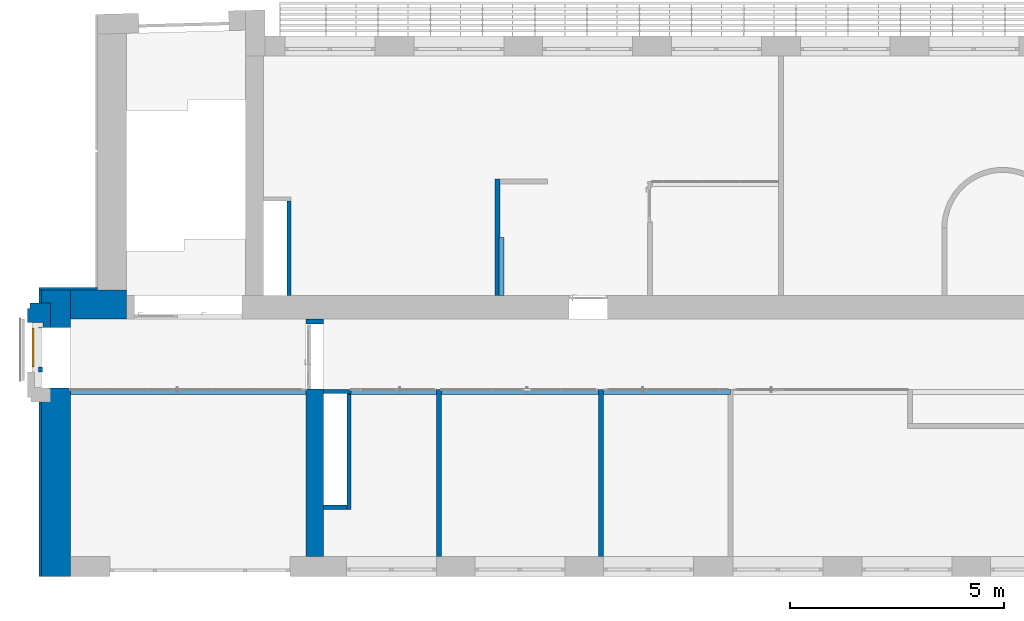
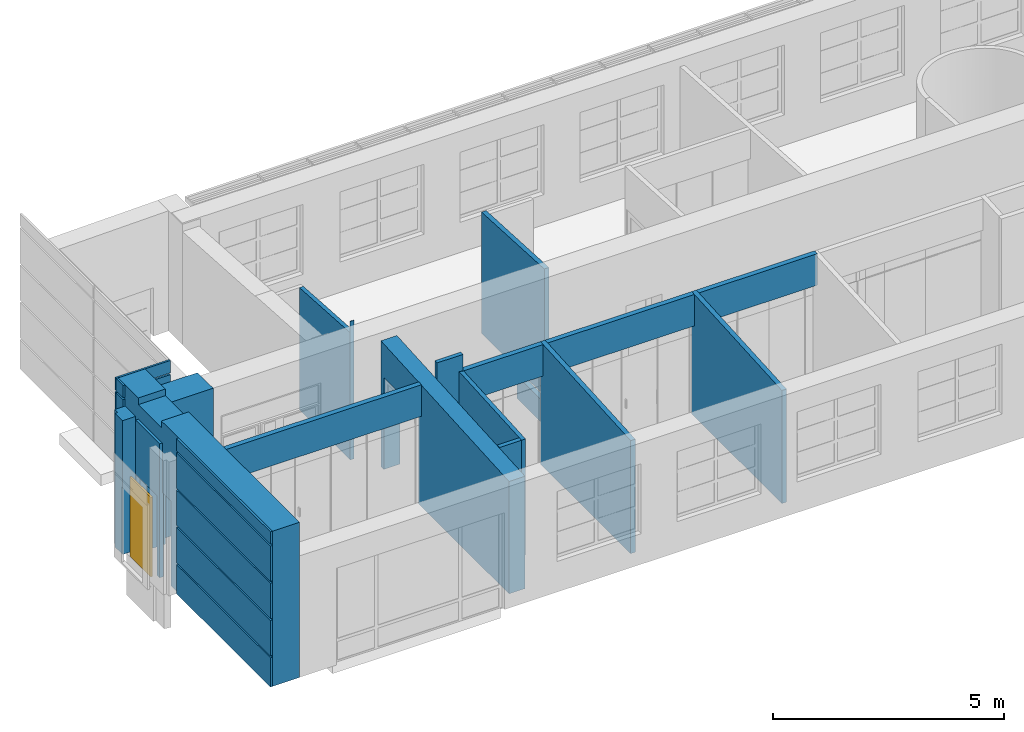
# One storey, part 24 of 46: 19 walls, 1 door, 5 openings.
"""IFC2X3 building model written with IfcOpenShell, lengths in millimetres."""

from ifc_helpers import new_model, entity, si_unit, converted_unit, derived_unit, direction, frame, frame_2d, origin, origin_2d_with_axis, place, context, subcontext, project, spatial, polyline, rectangle, outline, extrude, clip, halfspace, bounded_halfspace, source, transform, mapped, material, layer, layer_set, layer_usage, type_object, type_shapes, element, fill, save


model = new_model("IFC2X3")

# Units and contexts
model_context = context("Model", 3, precision=0.01, world=origin(), true_north=direction((6.12303176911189e-17, 1.0)))
body_context = subcontext(model_context, "Body", "Model", "MODEL_VIEW")
ifc_project = project(units=[si_unit("LENGTHUNIT", "METRE", prefix="MILLI"), si_unit("AREAUNIT", "SQUARE_METRE"), si_unit("VOLUMEUNIT", "CUBIC_METRE"), converted_unit("PLANEANGLEUNIT", "DEGREE", entity("IfcRatioMeasure", 0.0174532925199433), si_unit("PLANEANGLEUNIT", "RADIAN"), dimensions=[0, 0, 0, 0, 0, 0, 0]), si_unit("MASSUNIT", "GRAM", prefix="KILO"), derived_unit("MASSDENSITYUNIT", [(si_unit("MASSUNIT", "GRAM", prefix="KILO"), 1), (si_unit("LENGTHUNIT", "METRE"), -3)]), si_unit("TIMEUNIT", "SECOND"), si_unit("FREQUENCYUNIT", "HERTZ"), si_unit("THERMODYNAMICTEMPERATUREUNIT", "DEGREE_CELSIUS"), derived_unit("THERMALTRANSMITTANCEUNIT", [(si_unit("MASSUNIT", "GRAM", prefix="KILO"), 1), (si_unit("THERMODYNAMICTEMPERATUREUNIT", "KELVIN"), -1), (si_unit("TIMEUNIT", "SECOND"), -3)]), derived_unit("VOLUMETRICFLOWRATEUNIT", [(si_unit("LENGTHUNIT", "METRE"), 3), (si_unit("TIMEUNIT", "SECOND"), -1)]), si_unit("ELECTRICCURRENTUNIT", "AMPERE"), si_unit("ELECTRICVOLTAGEUNIT", "VOLT"), si_unit("POWERUNIT", "WATT"), si_unit("FORCEUNIT", "NEWTON", prefix="KILO"), si_unit("ILLUMINANCEUNIT", "LUX"), si_unit("LUMINOUSFLUXUNIT", "LUMEN"), si_unit("LUMINOUSINTENSITYUNIT", "CANDELA"), derived_unit("USERDEFINED", [(si_unit("MASSUNIT", "GRAM", prefix="KILO"), -1), (si_unit("LENGTHUNIT", "METRE"), -2), (si_unit("TIMEUNIT", "SECOND"), 3), (si_unit("LUMINOUSFLUXUNIT", "LUMEN"), 1)]), derived_unit("LINEARVELOCITYUNIT", [(si_unit("LENGTHUNIT", "METRE"), 1), (si_unit("TIMEUNIT", "SECOND"), -1)]), si_unit("PRESSUREUNIT", "PASCAL"), derived_unit("USERDEFINED", [(si_unit("LENGTHUNIT", "METRE"), -2), (si_unit("MASSUNIT", "GRAM", prefix="KILO"), 1), (si_unit("TIMEUNIT", "SECOND"), -2)])], contexts=[model_context])

# Site, building, storey
site_placement = place(None, frame((-151.875543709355, 2715.0, 0.0)))
site = spatial("IfcSite", under=ifc_project, at=site_placement, Name="Surface", CompositionType="ELEMENT")
building_placement = place(site_placement, origin())
building = spatial("IfcBuilding", under=site, at=building_placement, CompositionType="ELEMENT")
storey_placement = place(building_placement, frame((0.0, 0.0, 10060.0)))
storey = spatial("IfcBuildingStorey", under=building, at=storey_placement, Name="4 korrus", CompositionType="ELEMENT", Elevation=10060.0000000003)

# Wall
ifc_material_1 = material(Name="Paint - Sand Beige")
wall_type_1 = type_object("IfcWallType", Name="SEIN - 008", PredefinedType="NOTDEFINED", material=ifc_material_1)
wall_1_placement = place(storey_placement, frame((-541.883383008, 5811.79428101, 0.0), z_axis=(0.0, 0.0, 1.0), x_axis=(0.0, 1.0, 0.0)))
element("IfcWall", 1, at=wall_1_placement, inside=storey, type_object=wall_type_1, material=ifc_material_1, Name="SEIN - 008 159027:SEIN - 008 159027", ObjectType="SEIN - 008 159027:SEIN - 008 159027", context=body_context, shape_type="SweptSolid", body=[
    extrude(outline(polyline([(-157.552994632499, -240.085415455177), (163.395247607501, -240.085415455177), (163.395247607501, 118.497317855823), (281.7118979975, 118.497317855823), (281.7118979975, 301.673513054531), (-287.554150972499, 301.673513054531), (-287.554150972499, -180.085415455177), (-157.552994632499, -180.085415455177), (-157.552994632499, -240.085415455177)])), frame((281.7118979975, -240.085415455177, 0.0), z_axis=(0.0, 0.0, 1.0), x_axis=(-1.0, 0.0, 0.0)), (0.0, 0.0, 1.0), 3540.0),
])

# Wall, opening, door
ifc_material_2 = material(Name="Tellis")
ifc_layer_1 = layer(ifc_material_2, 90.0)
ifc_material_3 = material(Name="__Hall krohv")
ifc_layer_2 = layer(ifc_material_3, 10.0)
ifc_layer_set_1 = layer_set([ifc_layer_1, ifc_layer_2], Name="Basic Wall:SS-01_ol.olev tellissein100")
ifc_layer_usage_1 = layer_usage(ifc_layer_set_1, "AXIS2", "NEGATIVE", 50.0)
wall_type_2 = type_object("IfcWallType", Name="Basic Wall:SS-01_ol.olev tellissein100", PredefinedType="STANDARD", material=ifc_layer_set_1)
wall_2_placement = place(storey_placement, frame((-237.758928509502, 4771.38562567, 0.0), z_axis=(0.0, 0.0, 1.0), x_axis=(0.0, 1.0, 0.0)))
wall_2 = element("IfcWallStandardCase", 2, at=wall_2_placement, inside=storey, type_object=wall_type_2, material=ifc_layer_usage_1, Name="SEIN - 008", ObjectType="Basic Wall:SS-01_ol.olev tellissein100", context=body_context, shape_type="SweptSolid", body=[
    extrude(rectangle(XDim=1040.40865533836, YDim=100.0, at=frame_2d((520.20432766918, 0.0), x_axis=(-1.0, 0.0))), origin(), (0.0, 0.0, 1.0), 3540.0),
])
opening_1_placement = place(wall_2_placement, frame((-4771.38562567, -237.758928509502, 0.0), z_axis=(0.0, 0.0, 1.0), x_axis=(0.0, -1.0, 0.0)))
opening_1 = element("IfcOpeningElement", 3, at=opening_1_placement, cuts=wall_2, Name="SEIN - 008", ObjectType="Opening", context=body_context, shape_type="SweptSolid", body=[
    extrude(rectangle(XDim=2100.0, YDim=903.930664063, at=frame_2d((5.40012479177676e-13, -1.02318153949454e-12), x_axis=(0.0, 1.0))), frame((-84.7589285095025, 5344.60067749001, 1050.0), z_axis=(-1.0, 0.0, 0.0), x_axis=(0.0, -1.0, 0.0)), (0.0, 0.0, 1.0), 306.0),
])
ifc_material_4 = material(Name="Wood - Pine Grained Horizontal")
door_style = type_object("IfcDoorStyle", Name="liftiuks", ConstructionType="NOTDEFINED", OperationType="NOTDEFINED", ParameterTakesPrecedence=False, Sizeable=False, material=ifc_material_4)
shared_shape = source(origin(), body_context, "Body", "SweptSolid", [
    extrude(rectangle(XDim=451.965332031, YDim=40.0, at=origin_2d_with_axis()), frame((225.982666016, 22.0, 0.0), z_axis=(0.0, 0.0, 1.0), x_axis=(-1.0, 0.0, 0.0)), (0.0, 0.0, 1.0), 2100.0),
    extrude(rectangle(XDim=40.0, YDim=451.965332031, at=origin_2d_with_axis()), frame((677.947998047, 22.0, 0.0), z_axis=(0.0, 0.0, 1.0), x_axis=(0.0, 1.0, 0.0)), (0.0, 0.0, 1.0), 2100.0),
])
type_shapes(door_style, [shared_shape])
door_placement = place(opening_1_placement, frame((-390.758928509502, 4892.63534545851, 0.0), z_axis=(0.0, 0.0, 1.0), x_axis=(0.0, 1.0, 0.0)))
door = element("IfcDoor", 4, at=door_placement, inside=storey, type_object=door_style, material=ifc_material_4, Name="liftiuks:liftiuks", ObjectType="liftiuks", OverallHeight=2100.0, OverallWidth=903.930664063, context=body_context, shape_type="MappedRepresentation", body=[
    mapped(shared_shape, transform((0.0, 0.0, 0.0), scale=1.0)),
])
fill(opening_1, door)

# Wall, openings
ifc_material_5 = material(Name="__Tuuletõkkeplaat")
ifc_layer_3 = layer(ifc_material_5, 9.0)
ifc_material_6 = material(Name="__Soojustus EPS")
ifc_layer_4 = layer(ifc_material_6, 200.0)
ifc_material_7 = material(Name="Brick, Common")
ifc_layer_5 = layer(ifc_material_7, 450.0)
ifc_material_8 = material(Name="__Kips GN13_tava")
ifc_layer_6 = layer(ifc_material_8, 20.0)
ifc_layer_set_2 = layer_set([ifc_layer_3, ifc_layer_4, ifc_layer_5, ifc_layer_6], Name="Basic Wall:VS-2_olemasolev sein fassaadikassettidega")
ifc_layer_usage_2 = layer_usage(ifc_layer_set_2, "AXIS2", "NEGATIVE", 339.5)
wall_type_3 = type_object("IfcWallType", Name="Basic Wall:VS-2_olemasolev sein fassaadikassettidega", PredefinedType="STANDARD", material=ifc_layer_set_2)
wall_3_placement = place(storey_placement, frame((120.375545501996, -0.0953674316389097, 0.0), z_axis=(0.0, 0.0, 1.0), x_axis=(0.0, 1.0, 0.0)))
wall_3 = element("IfcWallStandardCase", 5, at=wall_3_placement, inside=storey, type_object=wall_type_3, material=ifc_layer_usage_2, Name="SEIN - 001", ObjectType="Basic Wall:VS-2_olemasolev sein fassaadikassettidega", context=body_context, shape_type="SweptSolid", body=[
    extrude(rectangle(XDim=6689.09536743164, YDim=679.0, at=frame_2d((3344.54768371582, -5.6843418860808e-14), x_axis=(1.0, 0.0))), origin(), (0.0, 0.0, 1.0), 4100.0),
])
opening_2_placement = place(wall_3_placement, origin())
element("IfcOpeningElement", 6, at=opening_2_placement, cuts=wall_3, Name="SEIN - 001", ObjectType="Opening", context=body_context, shape_type="SweptSolid", body=[
    extrude(rectangle(XDim=2230.0, YDim=1410.5172629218, at=frame_2d((0.0, 2.8421709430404e-13), x_axis=(1.0, 0.0))), frame((5106.6310169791, -339.5, 1115.0), z_axis=(0.0, 1.0, 0.0), x_axis=(0.0, 0.0, -1.0)), (0.0, 0.0, 1.0), 679.0),
])
opening_3_placement = place(wall_3_placement, origin())
element("IfcOpeningElement", 7, at=opening_3_placement, cuts=wall_3, Name="SEIN - 001", ObjectType="Opening", context=body_context, shape_type="SweptSolid", body=[
    extrude(rectangle(XDim=2199.99999999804, YDim=999.999999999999, at=frame_2d((-5.40012479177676e-13, 0.0), x_axis=(0.0, 1.0))), frame((5311.88964844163, -1403.62445454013, 5022.0), z_axis=(0.0, 1.0, 0.0), x_axis=(-1.0, 0.0, 0.0)), (0.0, 0.0, 1.0), 3048.0),
])

# Wall
ifc_layer_usage_3 = layer_usage(ifc_layer_set_2, "AXIS2", "NEGATIVE", 339.5)
wall_4_placement = place(storey_placement, frame((459.875545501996, 6349.5, 0.0)))
element("IfcWallStandardCase", 8, at=wall_4_placement, inside=storey, type_object=wall_type_3, material=ifc_layer_usage_3, Name="SEIN - 002", ObjectType="Basic Wall:VS-2_olemasolev sein fassaadikassettidega", context=body_context, shape_type="SweptSolid", body=[
    extrude(rectangle(XDim=1310.124454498, YDim=678.999999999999, at=frame_2d((655.062227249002, 0.0), x_axis=(-1.0, 0.0))), origin(), (0.0, 0.0, 1.0), 3540.0),
])

# Wall, openings
ifc_layer_7 = layer(ifc_material_3, 10.0)
ifc_layer_8 = layer(ifc_material_2, 380.0)
ifc_layer_9 = layer(ifc_material_3, 10.0)
ifc_layer_set_3 = layer_set([ifc_layer_7, ifc_layer_8, ifc_layer_9], Name="Basic Wall:SS-01_ol.olev tellissein400")
ifc_layer_usage_4 = layer_usage(ifc_layer_set_3, "AXIS2", "NEGATIVE", 200.0)
wall_type_4 = type_object("IfcWallType", Name="Basic Wall:SS-01_ol.olev tellissein400", PredefinedType="STANDARD", material=ifc_layer_set_3)
wall_5_placement = place(storey_placement, frame((6162.49352943, 459.904632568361, 0.0), z_axis=(0.0, 0.0, 1.0), x_axis=(0.0, 1.0, 0.0)))
wall_5 = element("IfcWallStandardCase", 9, at=wall_5_placement, inside=storey, type_object=wall_type_4, material=ifc_layer_usage_4, Name="SEIN - 001", ObjectType="Basic Wall:SS-01_ol.olev tellissein400", context=body_context, shape_type="Clipping", body=[
    clip(extrude(rectangle(XDim=5550.09536743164, YDim=400.0, at=frame_2d((2775.04768371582, 0.0), x_axis=(-1.0, 0.0))), origin(), (0.0, 0.0, 1.0), 3326.72700668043), halfspace(frame((0.0, -200.0, 2971.26018189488), z_axis=(-0.0639160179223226, 0.0, 0.997955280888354), x_axis=(0.0, 1.0, 0.0)), False)),
])
opening_4_placement = place(wall_5_placement, origin())
element("IfcOpeningElement", 10, at=opening_4_placement, cuts=wall_5, Name="SEIN - 001", ObjectType="Opening", context=body_context, shape_type="SweptSolid", body=[
    extrude(rectangle(XDim=2425.99386215, YDim=1510.16235352, at=frame_2d((-1.02318153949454e-12, 0.0), x_axis=(1.0, 0.0))), frame((4671.45356888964, -200.0, 1212.99693108), z_axis=(0.0, 1.0, 0.0), x_axis=(0.0, 0.0, -1.0)), (0.0, 0.0, 1.0), 800.0),
])
opening_5_placement = place(wall_5_placement, frame((3916.37239212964, -200.0, -0.00203353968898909)))
element("IfcOpeningElement", 11, at=opening_5_placement, cuts=wall_5, Name="Kahepoolsed:SU-23:1", ObjectType="Opening", context=body_context, shape_type="SweptSolid", body=[
    extrude(rectangle(XDim=2419.99999999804, YDim=1500.0, at=frame_2d((1209.99999999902, 750.0), x_axis=(1.0, 0.0))), frame((0.0, 0.0, 0.0), z_axis=(0.0, 1.0, 0.0), x_axis=(0.0, 0.0, 1.0)), (0.0, 0.0, 1.0), 400.0),
])

# Walls
ifc_layer_10 = layer(ifc_material_8, 12.5)
ifc_layer_11 = layer(ifc_material_8, 12.5)
ifc_layer_12 = layer(ifc_material_6, 66.0)
ifc_layer_13 = layer(ifc_material_8, 12.5)
ifc_layer_14 = layer(ifc_material_8, 12.5)
ifc_layer_set_4 = layer_set([ifc_layer_10, ifc_layer_11, ifc_layer_12, ifc_layer_13, ifc_layer_14], Name="Basic Wall:SS-3_Kipssein tava ruumide vahel")
ifc_layer_usage_5 = layer_usage(ifc_layer_set_4, "AXIS2", "NEGATIVE", 58.0)
wall_type_5 = type_object("IfcWallType", Name="Basic Wall:SS-3_Kipssein tava ruumide vahel", PredefinedType="STANDARD", material=ifc_layer_set_4)
wall_6_placement = place(storey_placement, frame((10524.8493480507, 6560.0, -929.570000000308), z_axis=(0.0, 0.0, 1.0), x_axis=(0.0, 1.0, 0.0)))
element("IfcWallStandardCase", 12, at=wall_6_placement, inside=storey, type_object=wall_type_5, material=ifc_layer_usage_5, Name="Basic Wall:SS-3_Kipssein tava ruumide vahel", ObjectType="Basic Wall:SS-3_Kipssein tava ruumide vahel", context=body_context, shape_type="SweptSolid", body=[
    extrude(rectangle(XDim=1355.06145812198, YDim=116.0, at=frame_2d((677.530729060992, -1.81188397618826e-13), x_axis=(-1.0, 0.0))), origin(), (0.0, 0.0, 1.0), 599.569999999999),
])
ifc_layer_usage_6 = layer_usage(ifc_layer_set_4, "AXIS2", "NEGATIVE", 58.0)
wall_7_placement = place(storey_placement, frame((12841.5647264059, 459.904632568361, 0.0), z_axis=(0.0, 0.0, 1.0), x_axis=(0.0, 1.0, 0.0)))
element("IfcWallStandardCase", 13, at=wall_7_placement, inside=storey, type_object=wall_type_5, material=ifc_layer_usage_6, Name="Basic Wall:SS-3_Kipssein tava ruumide vahel", ObjectType="Basic Wall:SS-3_Kipssein tava ruumide vahel", context=body_context, shape_type="Clipping", body=[
    clip(extrude(rectangle(XDim=3905.29099430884, YDim=116.0, at=frame_2d((1952.64549715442, 0.0), x_axis=(-1.0, 0.0))), origin(), (0.0, 0.0, 1.0), 3238.67844568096), bounded_halfspace(frame((0.0, -58.0, 2988.87229132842), z_axis=(-0.0638356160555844, 0.0, 0.997960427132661), x_axis=(0.0, -1.0, 0.0)), False, frame((0.0, -58.0, 2988.87229132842)), polyline([(0.0, 0.0), (3789.29099430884, 0.0), (3905.29099430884, 0.0), (3905.29099430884, 116.0), (3789.29099430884, 116.0), (0.0, 116.0), (0.0, 0.0)]))),
])
ifc_layer_usage_7 = layer_usage(ifc_layer_set_4, "AXIS2", "NEGATIVE", 58.0)
wall_8_placement = place(storey_placement, frame((9059.56472640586, 459.904632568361, 0.0), z_axis=(0.0, 0.0, 1.0), x_axis=(0.0, 1.0, 0.0)))
element("IfcWallStandardCase", 14, at=wall_8_placement, inside=storey, type_object=wall_type_5, material=ifc_layer_usage_7, Name="Basic Wall:SS-3_Kipssein tava ruumide vahel", ObjectType="Basic Wall:SS-3_Kipssein tava ruumide vahel", context=body_context, shape_type="Clipping", body=[
    clip(extrude(rectangle(XDim=3905.29099430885, YDim=116.0, at=frame_2d((1952.64549715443, 0.0), x_axis=(-1.0, 0.0))), origin(), (0.0, 0.0, 1.0), 3238.67844568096), bounded_halfspace(frame((0.0, -58.0, 2988.87229132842), z_axis=(-0.0638356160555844, 0.0, 0.997960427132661), x_axis=(0.0, -1.0, 0.0)), False, frame((0.0, -58.0, 2988.87229132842)), polyline([(0.0, 0.0), (3789.29099430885, 0.0), (3905.29099430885, 0.0), (3905.29099430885, 116.0), (3789.14030142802, 116.0), (0.0, 116.0), (0.0, 0.0)]))),
])
ifc_layer_usage_8 = layer_usage(ifc_layer_set_4, "AXIS2", "NEGATIVE", 58.0)
wall_9_placement = place(storey_placement, frame((12899.5647264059, 4307.19562687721, 2400.0)))
element("IfcWallStandardCase", 15, at=wall_9_placement, inside=storey, type_object=wall_type_5, material=ifc_layer_usage_8, Name="Basic Wall:SS-3_Kipssein tava ruumide vahel", ObjectType="Basic Wall:SS-3_Kipssein tava ruumide vahel", context=body_context, shape_type="Clipping", body=[
    clip(extrude(rectangle(XDim=2961.99999999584, YDim=116.0, at=frame_2d((1480.99999999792, 1.06581410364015e-13), x_axis=(-1.0, 0.0))), origin(), (0.0, 0.0, 1.0), 838.67844568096), bounded_halfspace(frame((0.0, -58.0, 831.258380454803), z_axis=(0.0, -0.0638356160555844, 0.997960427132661), x_axis=(1.0, 0.0, 0.0)), False, frame((0.0, -58.0, 831.258380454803)), polyline([(0.0, 0.0), (2962.0, 0.0), (2962.0, 116.0), (0.0, 116.0), (0.0, 0.0)]))),
])
ifc_layer_usage_9 = layer_usage(ifc_layer_set_4, "AXIS2", "NEGATIVE", 58.0)
wall_10_placement = place(storey_placement, frame((9117.56472640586, 4307.19562687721, 2400.0)))
element("IfcWallStandardCase", 16, at=wall_10_placement, inside=storey, type_object=wall_type_5, material=ifc_layer_usage_9, Name="Basic Wall:SS-3_Kipssein tava ruumide vahel", ObjectType="Basic Wall:SS-3_Kipssein tava ruumide vahel", context=body_context, shape_type="Clipping", body=[
    clip(extrude(rectangle(XDim=3666.0, YDim=116.0, at=frame_2d((1833.0, 7.8159700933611e-14), x_axis=(-1.0, 0.0))), origin(), (0.0, 0.0, 1.0), 838.67844568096), bounded_halfspace(frame((0.0, -58.0, 831.258380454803), z_axis=(0.0, -0.0638356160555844, 0.997960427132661), x_axis=(1.0, 0.0, 0.0)), False, frame((0.0, -58.0, 831.258380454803)), polyline([(0.0, 0.0), (3666.0, 0.0), (3666.0, 116.0), (0.0, 116.0), (0.0, 0.0)]))),
])
ifc_layer_usage_10 = layer_usage(ifc_layer_set_4, "AXIS2", "NEGATIVE", 58.0)
wall_11_placement = place(storey_placement, frame((6962.49352946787, 4307.04493399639, 2400.0)))
element("IfcWallStandardCase", 17, at=wall_11_placement, inside=storey, type_object=wall_type_5, material=ifc_layer_usage_10, Name="Basic Wall:SS-3_Kipssein tava ruumide vahel", ObjectType="Basic Wall:SS-3_Kipssein tava ruumide vahel", context=body_context, shape_type="Clipping", body=[
    clip(clip(extrude(rectangle(XDim=2039.07119693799, YDim=116.0, at=frame_2d((1019.535598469, 0.0), x_axis=(-1.0, 0.0))), origin(), (0.0, 0.0, 1.0), 839.948128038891), bounded_halfspace(frame((0.0, -58.0, 832.528062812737), z_axis=(0.0, -0.0638356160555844, 0.997960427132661), x_axis=(1.0, 0.0, 0.0)), False, frame((0.0, -58.0, 832.528062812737)), polyline([(0.0, 0.0), (353.999963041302, 0.0), (353.999963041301, 116.0), (0.0, 116.0), (0.0, 0.0)]))), bounded_halfspace(frame((353.999963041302, -58.0, 831.248741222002), z_axis=(0.0, -0.0638356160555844, 0.997960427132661), x_axis=(1.0, 0.0, 0.0)), False, frame((353.999963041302, -58.0, 831.248741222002)), polyline([(0.0, 0.0), (1685.07123389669, 0.0), (1685.07123389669, 116.0), (0.0, 116.0), (0.0, 0.0)]))),
])
ifc_layer_usage_11 = layer_usage(ifc_layer_set_4, "AXIS2", "NEGATIVE", 58.0)
wall_12_placement = place(storey_placement, frame((459.875545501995, 4307.04493399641, 2400.0)))
element("IfcWallStandardCase", 18, at=wall_12_placement, inside=storey, type_object=wall_type_5, material=ifc_layer_usage_11, Name="Basic Wall:SS-3_Kipssein tava ruumide vahel", ObjectType="Basic Wall:SS-3_Kipssein tava ruumide vahel", context=body_context, shape_type="Clipping", body=[
    clip(extrude(rectangle(XDim=5502.617983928, YDim=116.0, at=frame_2d((2751.308991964, -6.3948846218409e-14), x_axis=(-1.0, 0.0))), origin(), (0.0, 0.0, 1.0), 839.948128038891), bounded_halfspace(frame((0.0, -58.0, 832.528062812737), z_axis=(0.0, -0.0638356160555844, 0.997960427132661), x_axis=(1.0, 0.0, 0.0)), False, frame((0.0, -58.0, 832.528062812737)), polyline([(0.0, 0.0), (5502.617983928, 0.0), (5502.617983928, 116.0), (0.0, 116.0), (0.0, 0.0)]))),
])
ifc_layer_usage_12 = layer_usage(ifc_layer_set_4, "AXIS2", "NEGATIVE", 58.0)
wall_13_placement = place(storey_placement, frame((10422.666775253, 6560.0, 0.0), z_axis=(0.0, 0.0, 1.0), x_axis=(0.0, 1.0, 0.0)))
element("IfcWallStandardCase", 19, at=wall_13_placement, inside=storey, type_object=wall_type_5, material=ifc_layer_usage_12, Name="Basic Wall:SS-3_Kipssein tava ruumide vahel", ObjectType="Basic Wall:SS-3_Kipssein tava ruumide vahel", context=body_context, shape_type="Clipping", body=[
    clip(extrude(rectangle(XDim=2715.99999999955, YDim=116.0, at=frame_2d((1357.99999999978, -1.56319401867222e-13), x_axis=(-1.0, 0.0))), origin(), (0.0, 0.0, 1.0), 3348.94433682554), halfspace(frame((0.0, -58.0, 3348.94433682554), z_axis=(0.0524707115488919, 0.0, 0.99862246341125), x_axis=(0.0, 1.0, 0.0)), False)),
])
ifc_material_9 = material(Name="__Helehall")
ifc_layer_15 = layer(ifc_material_9, 10.0)
ifc_material_10 = material(Name="__Kergblokk")
ifc_layer_16 = layer(ifc_material_10, 90.0)
ifc_layer_set_5 = layer_set([ifc_layer_15, ifc_layer_16], Name="Basic Wall:SS-6_Šahti sein EI-60")
ifc_layer_usage_13 = layer_usage(ifc_layer_set_5, "AXIS2", "NEGATIVE", 50.0)
wall_type_6 = type_object("IfcWallType", Name="Basic Wall:SS-6_Šahti sein EI-60", PredefinedType="STANDARD", material=ifc_layer_set_5)
wall_14_placement = place(storey_placement, frame((5560.76301534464, 8760.0, 0.0), z_axis=(0.0, 0.0, 1.0), x_axis=(0.0, -1.0, 0.0)))
element("IfcWallStandardCase", 20, at=wall_14_placement, inside=storey, type_object=wall_type_6, material=ifc_layer_usage_13, Name="Basic Wall:SS-6_Šahti sein EI-60", ObjectType="Basic Wall:SS-6_Šahti sein EI-60", context=body_context, shape_type="Clipping", body=[
    clip(clip(extrude(rectangle(XDim=2199.9999999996, YDim=99.9999999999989, at=frame_2d((1099.9999999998, 7.8159700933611e-14), x_axis=(-1.0, 0.0))), origin(), (0.0, 0.0, 1.0), 3660.00000000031), bounded_halfspace(frame((2186.04772067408, -50.0, 3660.0), z_axis=(0.0, 0.0, -1.0), x_axis=(0.0, 1.0, 0.0)), True, frame((2186.04772067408, -50.0, 3660.0)), polyline([(0.0, 0.0), (13.9522793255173, 0.0), (13.9522793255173, 100.0), (0.0, 100.0), (0.0, 0.0)]))), bounded_halfspace(frame((0.0, -50.0, 3222.60434358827), z_axis=(-0.0638356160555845, 0.0, 0.997960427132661), x_axis=(0.0, -1.0, 0.0)), False, frame((0.0, -50.0, 3222.60434358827)), polyline([(0.0, 0.0), (2186.04772067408, 0.0), (2186.04772067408, 100.0), (0.0, 100.0), (0.0, 0.0)]))),
])
ifc_layer_usage_14 = layer_usage(ifc_layer_set_5, "AXIS2", "NEGATIVE", 50.0)
wall_15_placement = place(storey_placement, frame((6362.49352943, 4314.79940713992, 0.0)))
element("IfcWallStandardCase", 21, at=wall_15_placement, inside=storey, type_object=wall_type_6, material=ifc_layer_usage_14, Name="Basic Wall:SS-6_Šahti sein EI-60", ObjectType="Basic Wall:SS-6_Šahti sein EI-60", context=body_context, shape_type="Clipping", body=[
    clip(extrude(rectangle(XDim=650.000000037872, YDim=100.0, at=frame_2d((325.000000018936, -2.48689957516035e-14), x_axis=(-1.0, 0.0))), origin(), (0.0, 0.0, 1.0), 3660.00000000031), bounded_halfspace(frame((0.0, -50.0, 3660.0), z_axis=(0.0, 0.0, -1.0), x_axis=(1.0, 0.0, 0.0)), True, frame((0.0, -50.0, 3660.0)), polyline([(0.0, 0.0), (650.0, 0.0), (650.0, 100.0), (0.0, 100.0), (0.0, 0.0)]))),
])
ifc_layer_usage_15 = layer_usage(ifc_layer_set_5, "AXIS2", "NEGATIVE", 50.0)
wall_16_placement = place(storey_placement, frame((6962.49352946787, 4264.79940713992, 0.0), z_axis=(0.0, 0.0, 1.0), x_axis=(0.0, -1.0, 0.0)))
element("IfcWallStandardCase", 22, at=wall_16_placement, inside=storey, type_object=wall_type_6, material=ifc_layer_usage_15, Name="Basic Wall:SS-6_Šahti sein EI-60", ObjectType="Basic Wall:SS-6_Šahti sein EI-60", context=body_context, shape_type="Clipping", body=[
    clip(extrude(rectangle(XDim=2699.75447314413, YDim=99.9999999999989, at=frame_2d((1349.87723657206, -1.74082970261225e-13), x_axis=(-1.0, 0.0))), origin(), (0.0, 0.0, 1.0), 3233.53581469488), bounded_halfspace(frame((0.0, -50.0, 3233.53581469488), z_axis=(0.0638356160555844, 0.0, 0.997960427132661), x_axis=(0.0, 1.0, 0.0)), False, frame((0.0, -50.0, 3233.53581469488)), polyline([(0.0, 0.0), (2599.75447314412, 0.0), (2699.75447314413, 0.0), (2699.75447314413, 100.0), (0.0, 100.0), (0.0, 0.0)]))),
])
ifc_layer_usage_16 = layer_usage(ifc_layer_set_5, "AXIS2", "NEGATIVE", 50.0)
wall_17_placement = place(storey_placement, frame((6912.49352946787, 1615.0449339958, 0.0), z_axis=(0.0, 0.0, 1.0), x_axis=(-1.0, 0.0, 0.0)))
element("IfcWallStandardCase", 23, at=wall_17_placement, inside=storey, type_object=wall_type_6, material=ifc_layer_usage_16, Name="Basic Wall:SS-6_Šahti sein EI-60", ObjectType="Basic Wall:SS-6_Šahti sein EI-60", context=body_context, shape_type="Clipping", body=[
    clip(extrude(rectangle(XDim=550.000000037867, YDim=100.0, at=frame_2d((275.000000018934, -5.32907051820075e-14), x_axis=(-1.0, 0.0))), origin(), (0.0, 0.0, 1.0), 3067.2397132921), bounded_halfspace(frame((0.0, -50.0, 3067.2397132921), z_axis=(0.0, 0.0638356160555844, 0.997960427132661), x_axis=(-1.0, 0.0, 0.0)), False, frame((0.0, -50.0, 3067.2397132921)), polyline([(0.0, 0.0), (550.0, 0.0), (550.0, 100.0), (0.0, 100.0), (0.0, 0.0)]))),
])
ifc_material_11 = material(Name="Steel/Aluminium")
wall_type_7 = type_object("IfcWallType", Name="fassaad8:fassaad8", PredefinedType="NOTDEFINED", material=ifc_material_11)
wall_18_placement = place(storey_placement, frame((-269.124454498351, -0.095367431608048, 0.0), z_axis=(0.0, 0.0, 1.0), x_axis=(0.0, 1.0, 0.0)))
element("IfcWall", 24, at=wall_18_placement, inside=storey, type_object=wall_type_7, material=ifc_material_11, Name="fassaad8:fassaad8", ObjectType="fassaad8:fassaad8", context=body_context, shape_type="SweptSolid", body=[
    extrude(rectangle(XDim=50.0, YDim=4070.90546009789, at=origin_2d_with_axis()), frame((2035.45273004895, -25.0, 2790.11526944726), z_axis=(0.0, 0.0, 1.0), x_axis=(0.0, -1.0, 0.0)), (0.0, 0.0, 1.0), 934.999999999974),
    extrude(rectangle(XDim=50.0, YDim=303.940826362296, at=origin_2d_with_axis()), frame((6532.87587327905, -25.0, 3775.11526944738), z_axis=(0.0, 0.0, 1.0), x_axis=(0.0, -1.0, 0.0)), (0.0, 0.0, 1.0), 324.884730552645),
    extrude(rectangle(XDim=50.0, YDim=4070.9054600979, at=origin_2d_with_axis()), frame((2035.45273004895, -25.0, 0.0), z_axis=(0.0, 0.0, 1.0), x_axis=(0.0, -1.0, 0.0)), (0.0, 0.0, 1.0), 770.115284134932),
    extrude(rectangle(XDim=50.0, YDim=4070.90546009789, at=origin_2d_with_axis()), frame((2035.45273004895, -25.0, 820.115269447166), z_axis=(0.0, 0.0, 1.0), x_axis=(0.0, -1.0, 0.0)), (0.0, 0.0, 1.0), 934.999999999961),
    extrude(rectangle(XDim=50.0, YDim=4070.90546009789, at=frame_2d((-1.77635683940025e-14, 0.0), x_axis=(1.0, 0.0))), frame((2035.45273004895, -25.0, 1805.11526944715), z_axis=(0.0, 0.0, 1.0), x_axis=(0.0, -1.0, 0.0)), (0.0, 0.0, 1.0), 934.999999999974),
    extrude(rectangle(XDim=50.0, YDim=4070.90546009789, at=frame_2d((1.77635683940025e-14, 0.0), x_axis=(1.0, 0.0))), frame((2035.45273004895, -25.0, 3775.11526944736), z_axis=(0.0, 0.0, 1.0), x_axis=(0.0, -1.0, 0.0)), (0.0, 0.0, 1.0), 324.884730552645),
    extrude(rectangle(XDim=50.0, YDim=303.940826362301, at=origin_2d_with_axis()), frame((6532.87587327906, -25.0, 0.0), z_axis=(0.0, 0.0, 1.0), x_axis=(0.0, -1.0, 0.0)), (0.0, 0.0, 1.0), 770.115284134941),
    extrude(rectangle(XDim=50.0, YDim=303.940826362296, at=origin_2d_with_axis()), frame((6532.87587327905, -25.0, 820.115269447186), z_axis=(0.0, 0.0, 1.0), x_axis=(0.0, -1.0, 0.0)), (0.0, 0.0, 1.0), 934.999999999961),
    extrude(rectangle(XDim=50.0, YDim=303.940826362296, at=origin_2d_with_axis()), frame((6532.87587327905, -25.0, 1805.11526944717), z_axis=(0.0, 0.0, 1.0), x_axis=(0.0, -1.0, 0.0)), (0.0, 0.0, 1.0), 934.999999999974),
    extrude(rectangle(XDim=50.0, YDim=303.940826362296, at=origin_2d_with_axis()), frame((6532.87587327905, -25.0, 2790.11526944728), z_axis=(0.0, 0.0, 1.0), x_axis=(0.0, -1.0, 0.0)), (0.0, 0.0, 1.0), 934.999999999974),
])
wall_type_8 = type_object("IfcWallType", Name="fassaad10:fassaad10", PredefinedType="NOTDEFINED", material=ifc_material_11)
wall_19_placement = place(storey_placement, frame((-269.0, 6689.0, 0.0)))
element("IfcWall", 25, at=wall_19_placement, inside=storey, type_object=wall_type_8, material=ifc_material_11, Name="fassaad10:fassaad10", ObjectType="fassaad10:fassaad10", context=body_context, shape_type="SweptSolid", body=[
    extrude(rectangle(XDim=49.9999999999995, YDim=1359.99999999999, at=frame_2d((-5.41788836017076e-13, 0.0), x_axis=(1.0, 0.0))), frame((680.0, 25.0, 0.0), z_axis=(0.0, 0.0, 1.0), x_axis=(0.0, -1.0, 0.0)), (0.0, 0.0, 1.0), 770.115269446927),
    extrude(rectangle(XDim=49.9999999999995, YDim=1360.0, at=frame_2d((-5.41788836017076e-13, 0.0), x_axis=(1.0, 0.0))), frame((680.0, 25.0, 3775.11526944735), z_axis=(0.0, 0.0, 1.0), x_axis=(0.0, -1.0, 0.0)), (0.0, 0.0, 1.0), 324.884730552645),
    extrude(rectangle(XDim=49.9999999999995, YDim=1360.0, at=origin_2d_with_axis()), frame((680.0, 25.0, 2790.11526944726), z_axis=(0.0, 0.0, 1.0), x_axis=(0.0, -1.0, 0.0)), (0.0, 0.0, 1.0), 934.999999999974),
    extrude(rectangle(XDim=49.9999999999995, YDim=1360.0, at=frame_2d((-5.41788836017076e-13, 0.0), x_axis=(1.0, 0.0))), frame((680.0, 25.0, 820.115269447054), z_axis=(0.0, 0.0, 1.0), x_axis=(0.0, -1.0, 0.0)), (0.0, 0.0, 1.0), 934.999999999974),
    extrude(rectangle(XDim=49.9999999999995, YDim=1360.0, at=origin_2d_with_axis()), frame((680.0, 25.0, 1805.11526944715), z_axis=(0.0, 0.0, 1.0), x_axis=(0.0, -1.0, 0.0)), (0.0, 0.0, 1.0), 934.999999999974),
])

save(model, "model.ifc")
